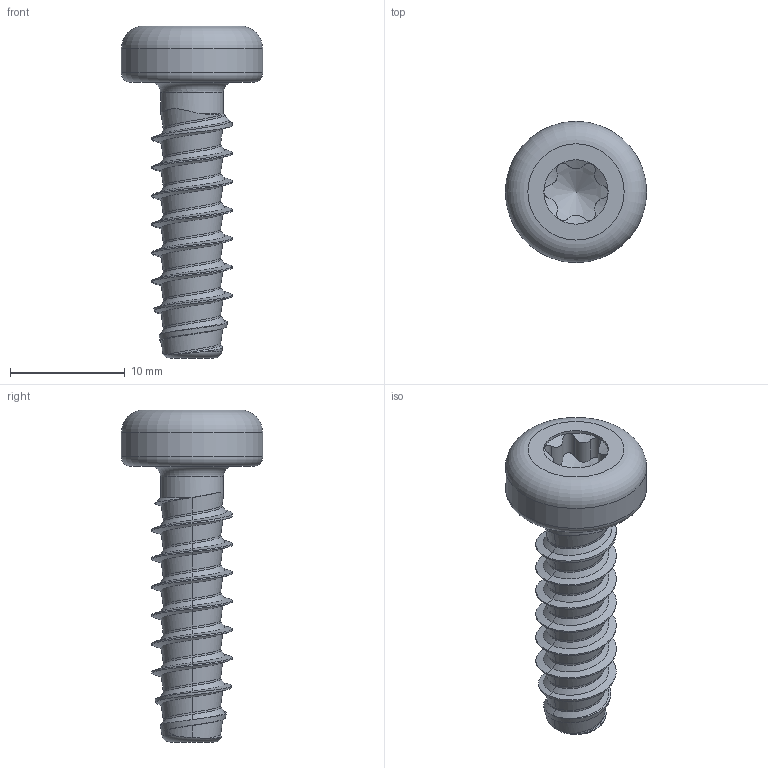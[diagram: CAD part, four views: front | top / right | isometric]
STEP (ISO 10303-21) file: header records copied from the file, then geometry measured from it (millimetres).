
FILE_DESCRIPTION(/* description */ (''),/* implementation_level */ '2;1');
FILE_NAME(/* name */ 'KN6039-STSplus-70x24-T30.step',/* time_stamp */ '2017-10-11T16:11:16+02:00',/* author */ (''),/* organization */ (''),/* preprocessor_version */ 'ST-DEVELOPER v16',/* originating_system */ 'SIEMENS PLM Software NX 10.0',/* authorisation */ '');
FILE_SCHEMA (('AUTOMOTIVE_DESIGN { 1 0 10303 214 3 1 1 1 }'));
Length unit declared in the file: millimetre
Products named in the file (1): KN6039-STSplus-70x24-T30
Bounding box: 12.3 x 12.3 x 28.9 mm (x, y, z)
Volume: 1056.9 mm3; surface area: 996.6 mm2
Topology: 1 solids, 1 shells, 79 faces, 185 edges, 109 vertices
Faces by surface type: bspline 47, cylinder 16, cone 9, torus 4, plane 3
Full cylindrical faces by diameter (mm): 5.48 x1, 5.6 x1, 12.3 x1
Entity records: 5389 total; most frequent: CARTESIAN_POINT 3966, ORIENTED_EDGE 346, EDGE_CURVE 173, DIRECTION 156, VERTEX_POINT 106, B_SPLINE_CURVE_WITH_KNOTS 101, EDGE_LOOP 88, ADVANCED_FACE 79
